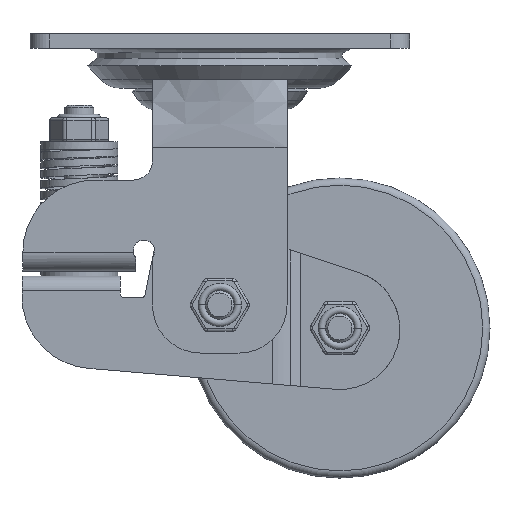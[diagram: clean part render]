
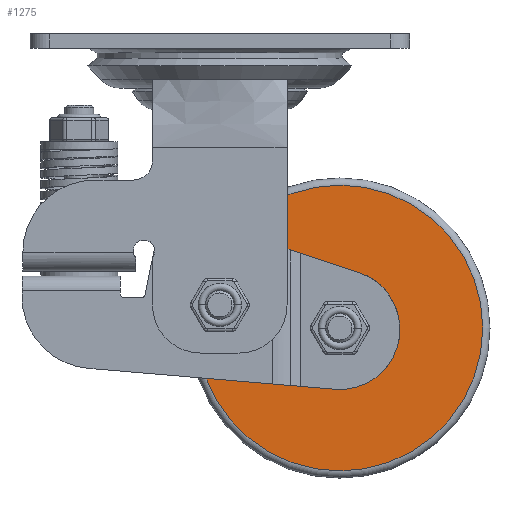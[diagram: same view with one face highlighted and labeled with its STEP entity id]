
A CAD part, front view. The second image highlights one B-rep face of the part: STEP entity #1275.
In plain terms, the highlighted planar face has unit normal (0, -1, 0).
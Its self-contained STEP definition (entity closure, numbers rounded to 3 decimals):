
#1275=ADVANCED_FACE('',(#2557,#2558),#1931,.F.);
#1931=PLANE('',#12968);
#2557=FACE_BOUND('',#2774,.T.);
#2558=FACE_BOUND('',#2775,.T.);
#2774=EDGE_LOOP('',(#4945));
#2775=EDGE_LOOP('',(#4946,#4947));
#3664=CIRCLE('',#12965,59.5);
#3665=CIRCLE('',#12966,14.);
#3666=CIRCLE('',#12967,14.);
#4945=ORIENTED_EDGE('',*,*,#9577,.T.);
#4946=ORIENTED_EDGE('',*,*,#9578,.F.);
#4947=ORIENTED_EDGE('',*,*,#9579,.F.);
#8291=VERTEX_POINT('',#19444);
#8292=VERTEX_POINT('',#19446);
#8293=VERTEX_POINT('',#19447);
#9577=EDGE_CURVE('',#8291,#8291,#3664,.T.);
#9578=EDGE_CURVE('',#8292,#8293,#3665,.T.);
#9579=EDGE_CURVE('',#8293,#8292,#3666,.T.);
#12965=AXIS2_PLACEMENT_3D('',#19443,#14870,#14871);
#12966=AXIS2_PLACEMENT_3D('',#19445,#14872,#14873);
#12967=AXIS2_PLACEMENT_3D('',#19448,#14874,#14875);
#12968=AXIS2_PLACEMENT_3D('',#19449,#14876,#14877);
#14870=DIRECTION('',(0.,-1.,0.));
#14871=DIRECTION('',(0.,0.,1.));
#14872=DIRECTION('',(0.,-1.,0.));
#14873=DIRECTION('',(0.,0.,1.));
#14874=DIRECTION('',(0.,-1.,0.));
#14875=DIRECTION('',(0.,0.,1.));
#14876=DIRECTION('',(0.,1.,0.));
#14877=DIRECTION('',(0.,0.,1.));
#19443=CARTESIAN_POINT('',(50.,-24.,-122.5));
#19444=CARTESIAN_POINT('',(50.,-24.,-63.));
#19445=CARTESIAN_POINT('',(50.,-24.,-122.5));
#19446=CARTESIAN_POINT('',(36.,-24.,-122.5));
#19447=CARTESIAN_POINT('',(64.,-24.,-122.5));
#19448=CARTESIAN_POINT('',(50.,-24.,-122.5));
#19449=CARTESIAN_POINT('',(50.,-24.,-122.5));
